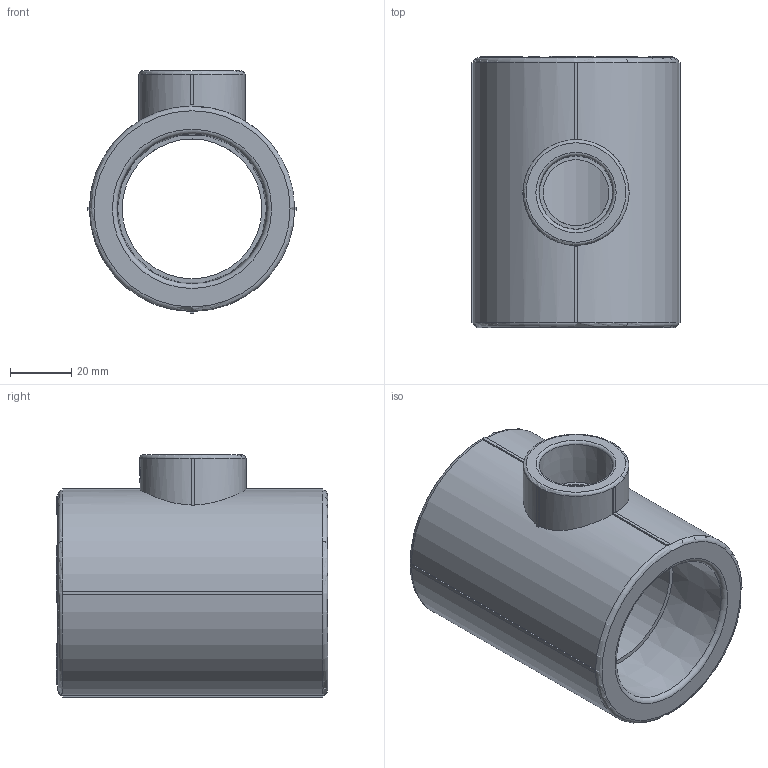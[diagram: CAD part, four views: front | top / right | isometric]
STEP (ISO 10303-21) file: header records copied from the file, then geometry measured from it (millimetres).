
FILE_DESCRIPTION(('STEP AP203'), '1');
FILE_NAME('ÂÐ.752241.064 - VTp.735.0.050025050', '', ('UNSPECIFIED'), ('UNSPECIFIED'), 'C3D Converter', 'C3D Toolkit', '');
FILE_SCHEMA(('CONFIG_CONTROL_DESIGN'));
Length unit declared in the file: millimetre
Products named in the file (1): ВР.752241.064
Bounding box: 68 x 88.5 x 79 mm (x, y, z)
Volume: 157284.4 mm3; surface area: 37788.8 mm2
Topology: 1 solids, 1 shells, 1114 faces, 3128 edges, 2077 vertices
Faces by surface type: extrusion 655, plane 415, cylinder 35, torus 6, cone 3
Full cylindrical faces by diameter (mm): 6 x1, 21.5 x1, 45.6 x1
Entity records: 41216 total; most frequent: CARTESIAN_POINT 15903, ORIENTED_EDGE 6232, DIRECTION 3129, EDGE_CURVE 3116, VECTOR 2119, VERTEX_POINT 2077, B_SPLINE_CURVE_WITH_KNOTS 1972, LINE 1464
